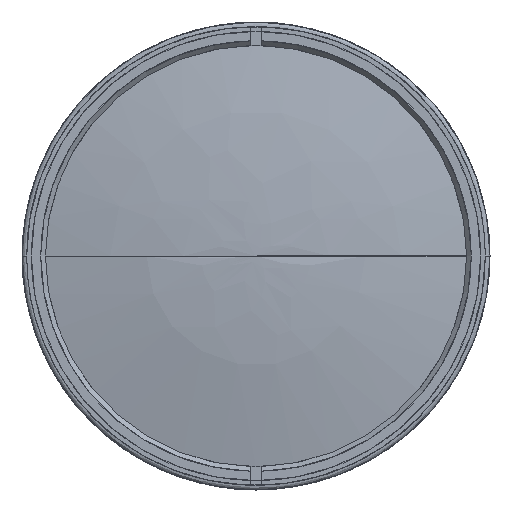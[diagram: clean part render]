
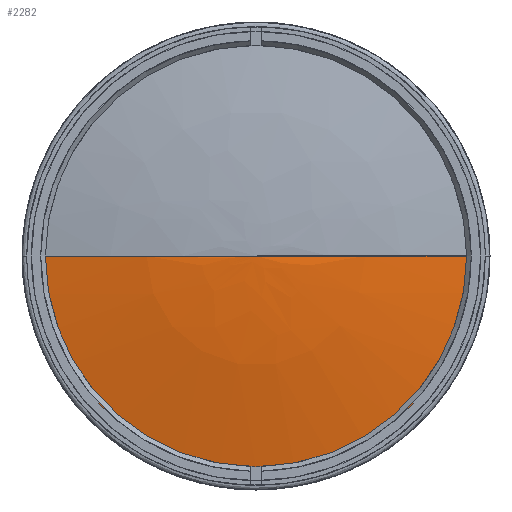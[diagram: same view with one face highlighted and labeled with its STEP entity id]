
A CAD part, left-side view. The second image highlights one B-rep face of the part: STEP entity #2282.
In plain terms, the highlighted face is a revolution surface.
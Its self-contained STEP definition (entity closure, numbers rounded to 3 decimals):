
#2282 = ADVANCED_FACE('',(#2283),#2301,.T.);
#2283 = FACE_BOUND('',#2284,.T.);
#2284 = EDGE_LOOP('',(#2285,#2315,#2334,#2353));
#2285 = ORIENTED_EDGE('',*,*,#2286,.F.);
#2286 = EDGE_CURVE('',#2287,#2289,#2291,.T.);
#2287 = VERTEX_POINT('',#2288);
#2288 = CARTESIAN_POINT('',(-187.385,0.,
    0.));
#2289 = VERTEX_POINT('',#2290);
#2290 = CARTESIAN_POINT('',(-182.505,46.5,
    0.));
#2291 = SURFACE_CURVE('',#2292,(#2300),.PCURVE_S1.);
#2292 = ( BOUNDED_CURVE() B_SPLINE_CURVE(6,(#2293,#2294,#2295,#2296,
#2297,#2298,#2299),.UNSPECIFIED.,.F.,.F.) B_SPLINE_CURVE_WITH_KNOTS((7,7
),(0.,1.),.PIECEWISE_BEZIER_KNOTS.) CURVE() 
GEOMETRIC_REPRESENTATION_ITEM() RATIONAL_B_SPLINE_CURVE((1.001,
    1.,1.,1.,1.,
1.,1.001)) REPRESENTATION_ITEM('') );
#2293 = CARTESIAN_POINT('',(-187.385,0.,
    0.));
#2294 = CARTESIAN_POINT('',(-187.385,7.81,
    0.));
#2295 = CARTESIAN_POINT('',(-187.058,15.616,
    0.));
#2296 = CARTESIAN_POINT('',(-186.405,23.403,
    0.));
#2297 = CARTESIAN_POINT('',(-185.428,31.157,
    0.));
#2298 = CARTESIAN_POINT('',(-184.127,38.861,
    0.));
#2299 = CARTESIAN_POINT('',(-182.505,46.5,
    0.));
#2300 = PCURVE('',#2301,#2310);
#2301 = SURFACE_OF_REVOLUTION('',#2302,#2307);
#2302 = CIRCLE('',#2303,224.);
#2303 = AXIS2_PLACEMENT_3D('',#2304,#2305,#2306);
#2304 = CARTESIAN_POINT('',(36.615,0.,0.));
#2305 = DIRECTION('',(-0.,0.,1.));
#2306 = DIRECTION('',(1.,0.,0.));
#2307 = AXIS1_PLACEMENT('',#2308,#2309);
#2308 = CARTESIAN_POINT('',(36.615,0.,0.));
#2309 = DIRECTION('',(1.,0.,0.));
#2310 = DEFINITIONAL_REPRESENTATION('',(#2311),#2314);
#2311 = B_SPLINE_CURVE_WITH_KNOTS('',1,(#2312,#2313),.UNSPECIFIED.,.F.,
  .F.,(2,2),(0.,1.),.PIECEWISE_BEZIER_KNOTS.);
#2312 = CARTESIAN_POINT('',(6.283,3.142));
#2313 = CARTESIAN_POINT('',(6.283,2.932));
#2314 = ( GEOMETRIC_REPRESENTATION_CONTEXT(2) 
PARAMETRIC_REPRESENTATION_CONTEXT() REPRESENTATION_CONTEXT('',''
  ) );
#2315 = ORIENTED_EDGE('',*,*,#2316,.F.);
#2316 = EDGE_CURVE('',#2317,#2287,#2319,.T.);
#2317 = VERTEX_POINT('',#2318);
#2318 = CARTESIAN_POINT('',(-187.385,0.,
    0.));
#2319 = SURFACE_CURVE('',#2320,(#2328),.PCURVE_S1.);
#2320 = ( BOUNDED_CURVE() B_SPLINE_CURVE(6,(#2321,#2322,#2323,#2324,
#2325,#2326,#2327),.UNSPECIFIED.,.F.,.F.) B_SPLINE_CURVE_WITH_KNOTS((7,7
),(0.,1.),.PIECEWISE_BEZIER_KNOTS.) CURVE() 
GEOMETRIC_REPRESENTATION_ITEM() RATIONAL_B_SPLINE_CURVE((1.133,
    1.036,0.992,0.976,0.992,
1.036,1.133)) REPRESENTATION_ITEM('') );
#2321 = CARTESIAN_POINT('',(-187.385,0.,
    0.));
#2322 = CARTESIAN_POINT('',(-187.385,0.,
    0.));
#2323 = CARTESIAN_POINT('',(-187.385,0.,
    0.));
#2324 = CARTESIAN_POINT('',(-187.385,0.,
    0.));
#2325 = CARTESIAN_POINT('',(-187.385,0.,
    0.));
#2326 = CARTESIAN_POINT('',(-187.385,0.,
    0.));
#2327 = CARTESIAN_POINT('',(-187.385,0.,
    0.));
#2328 = PCURVE('',#2301,#2329);
#2329 = DEFINITIONAL_REPRESENTATION('',(#2330),#2333);
#2330 = B_SPLINE_CURVE_WITH_KNOTS('',1,(#2331,#2332),.UNSPECIFIED.,.F.,
  .F.,(2,2),(0.,1.),.PIECEWISE_BEZIER_KNOTS.);
#2331 = CARTESIAN_POINT('',(3.142,3.142));
#2332 = CARTESIAN_POINT('',(6.283,3.142));
#2333 = ( GEOMETRIC_REPRESENTATION_CONTEXT(2) 
PARAMETRIC_REPRESENTATION_CONTEXT() REPRESENTATION_CONTEXT('',''
  ) );
#2334 = ORIENTED_EDGE('',*,*,#2335,.F.);
#2335 = EDGE_CURVE('',#2336,#2317,#2338,.T.);
#2336 = VERTEX_POINT('',#2337);
#2337 = CARTESIAN_POINT('',(-182.505,-46.5,
    0.));
#2338 = SURFACE_CURVE('',#2339,(#2347),.PCURVE_S1.);
#2339 = ( BOUNDED_CURVE() B_SPLINE_CURVE(6,(#2340,#2341,#2342,#2343,
#2344,#2345,#2346),.UNSPECIFIED.,.F.,.F.) B_SPLINE_CURVE_WITH_KNOTS((7,7
),(0.,1.),.PIECEWISE_BEZIER_KNOTS.) CURVE() 
GEOMETRIC_REPRESENTATION_ITEM() RATIONAL_B_SPLINE_CURVE((1.001,
    1.,1.,1.,1.,
1.,1.001)) REPRESENTATION_ITEM('') );
#2340 = CARTESIAN_POINT('',(-182.505,-46.5,
    0.));
#2341 = CARTESIAN_POINT('',(-184.127,-38.861,
    0.));
#2342 = CARTESIAN_POINT('',(-185.428,-31.157,
    0.));
#2343 = CARTESIAN_POINT('',(-186.405,-23.403,
    0.));
#2344 = CARTESIAN_POINT('',(-187.058,-15.616,
    0.));
#2345 = CARTESIAN_POINT('',(-187.385,-7.81,
    0.));
#2346 = CARTESIAN_POINT('',(-187.385,0.,
    0.));
#2347 = PCURVE('',#2301,#2348);
#2348 = DEFINITIONAL_REPRESENTATION('',(#2349),#2352);
#2349 = B_SPLINE_CURVE_WITH_KNOTS('',1,(#2350,#2351),.UNSPECIFIED.,.F.,
  .F.,(2,2),(0.,1.),.PIECEWISE_BEZIER_KNOTS.);
#2350 = CARTESIAN_POINT('',(3.142,2.932));
#2351 = CARTESIAN_POINT('',(3.142,3.142));
#2352 = ( GEOMETRIC_REPRESENTATION_CONTEXT(2) 
PARAMETRIC_REPRESENTATION_CONTEXT() REPRESENTATION_CONTEXT('',''
  ) );
#2353 = ORIENTED_EDGE('',*,*,#2354,.F.);
#2354 = EDGE_CURVE('',#2289,#2336,#2355,.T.);
#2355 = SURFACE_CURVE('',#2356,(#2367),.PCURVE_S1.);
#2356 = B_SPLINE_CURVE_WITH_KNOTS('',9,(#2357,#2358,#2359,#2360,#2361,
    #2362,#2363,#2364,#2365,#2366),.UNSPECIFIED.,.F.,.F.,(10,10),(0.,1.)
  ,.PIECEWISE_BEZIER_KNOTS.);
#2357 = CARTESIAN_POINT('',(-182.505,46.5,
    0.));
#2358 = CARTESIAN_POINT('',(-182.505,46.5,
    -16.232));
#2359 = CARTESIAN_POINT('',(-182.505,40.126,
    -32.463));
#2360 = CARTESIAN_POINT('',(-182.505,27.378,
    -45.833));
#2361 = CARTESIAN_POINT('',(-182.505,9.754,
    -53.486));
#2362 = CARTESIAN_POINT('',(-182.505,-9.754,
    -53.486));
#2363 = CARTESIAN_POINT('',(-182.505,-27.378,
    -45.833));
#2364 = CARTESIAN_POINT('',(-182.505,-40.126,
    -32.463));
#2365 = CARTESIAN_POINT('',(-182.505,-46.5,
    -16.232));
#2366 = CARTESIAN_POINT('',(-182.505,-46.5,
    0.));
#2367 = PCURVE('',#2301,#2368);
#2368 = DEFINITIONAL_REPRESENTATION('',(#2369),#2372);
#2369 = B_SPLINE_CURVE_WITH_KNOTS('',1,(#2370,#2371),.UNSPECIFIED.,.F.,
  .F.,(2,2),(0.,1.),.PIECEWISE_BEZIER_KNOTS.);
#2370 = CARTESIAN_POINT('',(6.283,2.932));
#2371 = CARTESIAN_POINT('',(3.142,2.932));
#2372 = ( GEOMETRIC_REPRESENTATION_CONTEXT(2) 
PARAMETRIC_REPRESENTATION_CONTEXT() REPRESENTATION_CONTEXT('',''
  ) );
